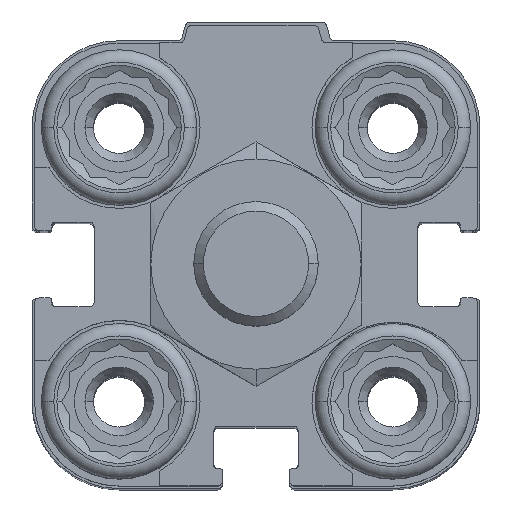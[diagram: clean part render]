
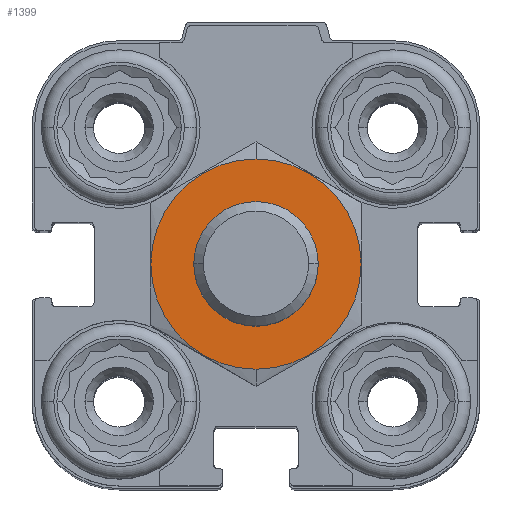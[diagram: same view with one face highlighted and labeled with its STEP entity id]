
A CAD part, top view. The second image highlights one B-rep face of the part: STEP entity #1399.
In plain terms, the highlighted planar face has unit normal (0, 0, 1).
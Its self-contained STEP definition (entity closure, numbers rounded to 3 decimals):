
#123 = AXIS2_PLACEMENT_3D ( 'NONE', #18013, #19874, #5891 ) ;
#216 = FACE_BOUND ( 'NONE', #8697, .T. ) ;
#454 = CIRCLE ( 'NONE', #123, 5. ) ;
#1399 = ADVANCED_FACE ( 'NONE', ( #8122, #216 ), #14404, .F. ) ;
#2265 = AXIS2_PLACEMENT_3D ( 'NONE', #16877, #13882, #10496 ) ;
#2661 = VERTEX_POINT ( 'NONE', #13108 ) ;
#3119 = EDGE_CURVE ( 'NONE', #13662, #13675, #10146, .T. ) ;
#3225 = CARTESIAN_POINT ( 'NONE',  ( 0., 0., 13.5 ) ) ;
#5525 = DIRECTION ( 'NONE',  ( 0., 0., -1. ) ) ;
#5891 = DIRECTION ( 'NONE',  ( 0., -1., 0. ) ) ;
#6506 = DIRECTION ( 'NONE',  ( 0., 0., -1. ) ) ;
#7092 = AXIS2_PLACEMENT_3D ( 'NONE', #3225, #6506, #7928 ) ;
#7398 = EDGE_CURVE ( 'NONE', #2661, #16120, #16197, .T. ) ;
#7453 = ORIENTED_EDGE ( 'NONE', *, *, #3119, .T. ) ;
#7928 = DIRECTION ( 'NONE',  ( 0., -1., 0. ) ) ;
#8061 = ORIENTED_EDGE ( 'NONE', *, *, #7398, .F. ) ;
#8122 = FACE_OUTER_BOUND ( 'NONE', #10299, .T. ) ;
#8697 = EDGE_LOOP ( 'NONE', ( #7453, #9178 ) ) ;
#9178 = ORIENTED_EDGE ( 'NONE', *, *, #19019, .T. ) ;
#9287 = EDGE_CURVE ( 'NONE', #16120, #2661, #15966, .T. ) ;
#9367 = ORIENTED_EDGE ( 'NONE', *, *, #9287, .F. ) ;
#9376 = DIRECTION ( 'NONE',  ( 0., 0., -1. ) ) ;
#10146 = CIRCLE ( 'NONE', #2265, 5. ) ;
#10299 = EDGE_LOOP ( 'NONE', ( #9367, #8061 ) ) ;
#10496 = DIRECTION ( 'NONE',  ( 0., -1., 0. ) ) ;
#11788 = DIRECTION ( 'NONE',  ( 0., -1., 0. ) ) ;
#12740 = CARTESIAN_POINT ( 'NONE',  ( 0., -5., 13.5 ) ) ;
#12758 = DIRECTION ( 'NONE',  ( 0., -1., 0. ) ) ;
#12968 = CARTESIAN_POINT ( 'NONE',  ( 0., -8.45, 13.5 ) ) ;
#13108 = CARTESIAN_POINT ( 'NONE',  ( 0., 8.45, 13.5 ) ) ;
#13662 = VERTEX_POINT ( 'NONE', #17768 ) ;
#13675 = VERTEX_POINT ( 'NONE', #12740 ) ;
#13882 = DIRECTION ( 'NONE',  ( 0., 0., -1. ) ) ;
#14404 = PLANE ( 'NONE',  #17572 ) ;
#14880 = AXIS2_PLACEMENT_3D ( 'NONE', #19612, #5525, #11788 ) ;
#15966 = CIRCLE ( 'NONE', #7092, 8.45 ) ;
#16120 = VERTEX_POINT ( 'NONE', #12968 ) ;
#16197 = CIRCLE ( 'NONE', #14880, 8.45 ) ;
#16877 = CARTESIAN_POINT ( 'NONE',  ( 0., 0., 13.5 ) ) ;
#17189 = CARTESIAN_POINT ( 'NONE',  ( 0., 0., 13.5 ) ) ;
#17572 = AXIS2_PLACEMENT_3D ( 'NONE', #17189, #9376, #12758 ) ;
#17768 = CARTESIAN_POINT ( 'NONE',  ( 0., 5., 13.5 ) ) ;
#18013 = CARTESIAN_POINT ( 'NONE',  ( 0., 0., 13.5 ) ) ;
#19019 = EDGE_CURVE ( 'NONE', #13675, #13662, #454, .T. ) ;
#19612 = CARTESIAN_POINT ( 'NONE',  ( 0., 0., 13.5 ) ) ;
#19874 = DIRECTION ( 'NONE',  ( 0., 0., -1. ) ) ;
